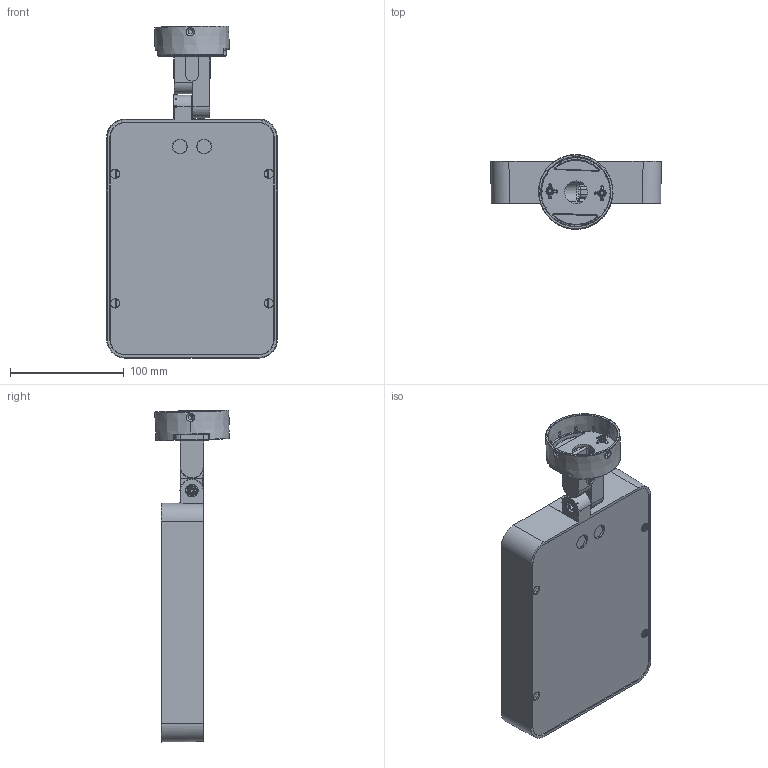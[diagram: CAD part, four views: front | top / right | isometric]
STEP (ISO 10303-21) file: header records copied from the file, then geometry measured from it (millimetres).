
FILE_DESCRIPTION((''),'2;1');
FILE_NAME('TAG210-COB-CITIZEN_SW0003','2025-07-29T08:55:42',('Piccioli'),(''),'CREO PARAMETRIC BY PTC INC, 2025010','CREO PARAMETRIC BY PTC INC, 2025010','');
FILE_SCHEMA(('CONFIG_CONTROL_DESIGN'));
Products named in the file (1): TAG210-COB-CITIZEN_SW0003
Bounding box: 150 x 65.78 x 291.92 mm (x, y, z)
Surface area: 238734.8 mm2 (no closed solid volume)
Topology: 0 solids, 54 shells, 915 faces, 3675 edges, 2734 vertices
Faces by surface type: plane 253, cylinder 225, bspline 169, cone 155, torus 109, sphere 4
Entity records: 62543 total; most frequent: CARTESIAN_POINT 34925, DIRECTION 5287, ORIENTED_EDGE 5163, EDGE_CURVE 3675, VERTEX_POINT 2734, AXIS2_PLACEMENT_3D 1920, VECTOR 1447, LINE 1447
